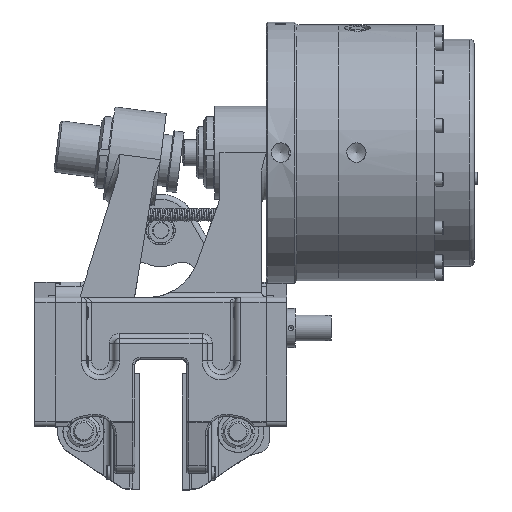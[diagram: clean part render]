
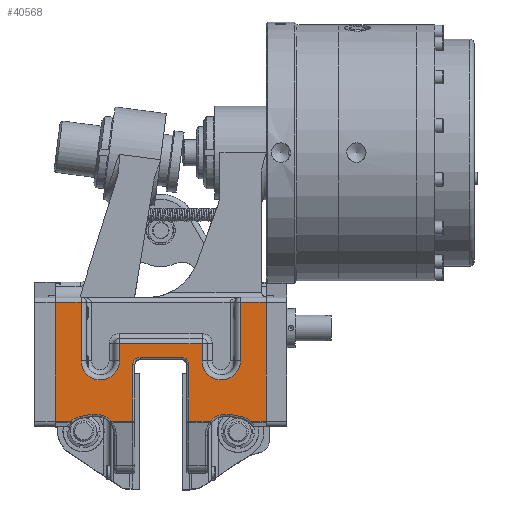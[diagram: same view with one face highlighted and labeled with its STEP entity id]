
A CAD part, top view. The second image highlights one B-rep face of the part: STEP entity #40568.
In plain terms, the highlighted planar face has unit normal (0, 0, 1).
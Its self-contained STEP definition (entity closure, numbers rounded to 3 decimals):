
#3391=FACE_OUTER_BOUND('',#5814,.T.);
#5814=EDGE_LOOP('',(#31952,#31953,#31954,#31955,#31956,#31957,#31958,#31959,
#31960,#31961,#31962,#31963,#31964,#31965,#31966,#31967,#31968,#31969,#31970,
#31971,#31972,#31973,#31974,#31975,#31976,#31977));
#8373=CIRCLE('',#44431,20.);
#8377=CIRCLE('',#44437,18.);
#8379=CIRCLE('',#44443,7.);
#8380=CIRCLE('',#44444,7.);
#8381=CIRCLE('',#44445,20.);
#8382=CIRCLE('',#44446,18.);
#8383=CIRCLE('',#44447,18.5);
#8384=CIRCLE('',#44448,18.5);
#10731=LINE('',#69783,#13380);
#10795=LINE('',#70010,#13444);
#10796=LINE('',#70083,#13445);
#10798=LINE('',#70087,#13447);
#10799=LINE('',#70089,#13448);
#10800=LINE('',#70093,#13449);
#10801=LINE('',#70097,#13450);
#10802=LINE('',#70099,#13451);
#10803=LINE('',#70103,#13452);
#10804=LINE('',#70107,#13453);
#10805=LINE('',#70109,#13454);
#10806=LINE('',#70111,#13455);
#10807=LINE('',#70113,#13456);
#10808=LINE('',#70117,#13457);
#10809=LINE('',#70119,#13458);
#10810=LINE('',#70121,#13459);
#10811=LINE('',#70125,#13460);
#10812=LINE('',#70126,#13461);
#13380=VECTOR('',#53592,10.);
#13444=VECTOR('',#53744,10.);
#13445=VECTOR('',#53761,10.);
#13447=VECTOR('',#53765,10.);
#13448=VECTOR('',#53766,10.);
#13449=VECTOR('',#53769,10.);
#13450=VECTOR('',#53772,10.);
#13451=VECTOR('',#53773,10.);
#13452=VECTOR('',#53776,10.);
#13453=VECTOR('',#53779,10.);
#13454=VECTOR('',#53780,10.);
#13455=VECTOR('',#53781,5.);
#13456=VECTOR('',#53782,10.);
#13457=VECTOR('',#53785,10.);
#13458=VECTOR('',#53786,10.);
#13459=VECTOR('',#53787,10.);
#13460=VECTOR('',#53790,10.);
#13461=VECTOR('',#53791,5.);
#17366=VERTEX_POINT('',#69776);
#17368=VERTEX_POINT('',#69782);
#17422=VERTEX_POINT('',#69988);
#17424=VERTEX_POINT('',#70000);
#17426=VERTEX_POINT('',#70006);
#17428=VERTEX_POINT('',#70012);
#17434=VERTEX_POINT('',#70086);
#17435=VERTEX_POINT('',#70088);
#17436=VERTEX_POINT('',#70090);
#17437=VERTEX_POINT('',#70092);
#17438=VERTEX_POINT('',#70094);
#17439=VERTEX_POINT('',#70096);
#17440=VERTEX_POINT('',#70098);
#17441=VERTEX_POINT('',#70100);
#17442=VERTEX_POINT('',#70102);
#17443=VERTEX_POINT('',#70104);
#17444=VERTEX_POINT('',#70106);
#17445=VERTEX_POINT('',#70108);
#17446=VERTEX_POINT('',#70110);
#17447=VERTEX_POINT('',#70112);
#17448=VERTEX_POINT('',#70114);
#17449=VERTEX_POINT('',#70116);
#17450=VERTEX_POINT('',#70118);
#17451=VERTEX_POINT('',#70120);
#17452=VERTEX_POINT('',#70122);
#17453=VERTEX_POINT('',#70124);
#22423=EDGE_CURVE('',#17368,#17366,#10731,.T.);
#22508=EDGE_CURVE('',#17422,#17424,#8373,.T.);
#22511=EDGE_CURVE('',#17424,#17426,#10795,.T.);
#22514=EDGE_CURVE('',#17426,#17428,#8377,.T.);
#22521=EDGE_CURVE('',#17428,#17366,#10796,.T.);
#22523=EDGE_CURVE('',#17434,#17422,#10798,.T.);
#22524=EDGE_CURVE('',#17435,#17434,#10799,.T.);
#22525=EDGE_CURVE('',#17436,#17435,#8379,.T.);
#22526=EDGE_CURVE('',#17437,#17436,#10800,.T.);
#22527=EDGE_CURVE('',#17438,#17437,#8380,.T.);
#22528=EDGE_CURVE('',#17439,#17438,#10801,.T.);
#22529=EDGE_CURVE('',#17440,#17439,#10802,.T.);
#22530=EDGE_CURVE('',#17441,#17440,#8381,.T.);
#22531=EDGE_CURVE('',#17442,#17441,#10803,.T.);
#22532=EDGE_CURVE('',#17443,#17442,#8382,.T.);
#22533=EDGE_CURVE('',#17444,#17443,#10804,.T.);
#22534=EDGE_CURVE('',#17445,#17444,#10805,.T.);
#22535=EDGE_CURVE('',#17446,#17445,#10806,.T.);
#22536=EDGE_CURVE('',#17447,#17446,#10807,.T.);
#22537=EDGE_CURVE('',#17448,#17447,#8383,.T.);
#22538=EDGE_CURVE('',#17449,#17448,#10808,.T.);
#22539=EDGE_CURVE('',#17450,#17449,#10809,.T.);
#22540=EDGE_CURVE('',#17451,#17450,#10810,.T.);
#22541=EDGE_CURVE('',#17452,#17451,#8384,.T.);
#22542=EDGE_CURVE('',#17453,#17452,#10811,.T.);
#22543=EDGE_CURVE('',#17368,#17453,#10812,.T.);
#31952=ORIENTED_EDGE('',*,*,#22514,.F.);
#31953=ORIENTED_EDGE('',*,*,#22511,.F.);
#31954=ORIENTED_EDGE('',*,*,#22508,.F.);
#31955=ORIENTED_EDGE('',*,*,#22523,.F.);
#31956=ORIENTED_EDGE('',*,*,#22524,.F.);
#31957=ORIENTED_EDGE('',*,*,#22525,.F.);
#31958=ORIENTED_EDGE('',*,*,#22526,.F.);
#31959=ORIENTED_EDGE('',*,*,#22527,.F.);
#31960=ORIENTED_EDGE('',*,*,#22528,.F.);
#31961=ORIENTED_EDGE('',*,*,#22529,.F.);
#31962=ORIENTED_EDGE('',*,*,#22530,.F.);
#31963=ORIENTED_EDGE('',*,*,#22531,.F.);
#31964=ORIENTED_EDGE('',*,*,#22532,.F.);
#31965=ORIENTED_EDGE('',*,*,#22533,.F.);
#31966=ORIENTED_EDGE('',*,*,#22534,.F.);
#31967=ORIENTED_EDGE('',*,*,#22535,.F.);
#31968=ORIENTED_EDGE('',*,*,#22536,.F.);
#31969=ORIENTED_EDGE('',*,*,#22537,.F.);
#31970=ORIENTED_EDGE('',*,*,#22538,.F.);
#31971=ORIENTED_EDGE('',*,*,#22539,.F.);
#31972=ORIENTED_EDGE('',*,*,#22540,.F.);
#31973=ORIENTED_EDGE('',*,*,#22541,.F.);
#31974=ORIENTED_EDGE('',*,*,#22542,.F.);
#31975=ORIENTED_EDGE('',*,*,#22543,.F.);
#31976=ORIENTED_EDGE('',*,*,#22423,.T.);
#31977=ORIENTED_EDGE('',*,*,#22521,.F.);
#36985=PLANE('',#44442);
#40568=ADVANCED_FACE('',(#3391),#36985,.T.);
#44431=AXIS2_PLACEMENT_3D('',#70004,#53737,#53738);
#44437=AXIS2_PLACEMENT_3D('',#70016,#53751,#53752);
#44442=AXIS2_PLACEMENT_3D('',#70085,#53763,#53764);
#44443=AXIS2_PLACEMENT_3D('',#70091,#53767,#53768);
#44444=AXIS2_PLACEMENT_3D('',#70095,#53770,#53771);
#44445=AXIS2_PLACEMENT_3D('',#70101,#53774,#53775);
#44446=AXIS2_PLACEMENT_3D('',#70105,#53777,#53778);
#44447=AXIS2_PLACEMENT_3D('',#70115,#53783,#53784);
#44448=AXIS2_PLACEMENT_3D('',#70123,#53788,#53789);
#53592=DIRECTION('',(0.,-1.,0.));
#53737=DIRECTION('center_axis',(0.,0.,1.));
#53738=DIRECTION('ref_axis',(0.29,0.957,0.));
#53744=DIRECTION('',(-0.985,-0.174,0.));
#53751=DIRECTION('center_axis',(0.,0.,1.));
#53752=DIRECTION('ref_axis',(-0.388,0.922,0.));
#53761=DIRECTION('',(-1.,0.,0.));
#53763=DIRECTION('center_axis',(0.,0.,1.));
#53764=DIRECTION('ref_axis',(1.,0.,0.));
#53765=DIRECTION('',(-1.,0.,0.));
#53766=DIRECTION('',(0.,-1.,0.));
#53767=DIRECTION('center_axis',(0.,0.,1.));
#53768=DIRECTION('ref_axis',(-0.707,0.707,0.));
#53769=DIRECTION('',(-1.,0.,0.));
#53770=DIRECTION('center_axis',(0.,0.,1.));
#53771=DIRECTION('ref_axis',(0.707,0.707,0.));
#53772=DIRECTION('',(0.,1.,0.));
#53773=DIRECTION('',(-1.,0.,0.));
#53774=DIRECTION('center_axis',(0.,0.,1.));
#53775=DIRECTION('ref_axis',(-0.29,0.957,0.));
#53776=DIRECTION('',(-0.985,0.174,0.));
#53777=DIRECTION('center_axis',(0.,0.,1.));
#53778=DIRECTION('ref_axis',(0.388,0.922,0.));
#53779=DIRECTION('',(-1.,0.,0.));
#53780=DIRECTION('',(0.,-1.,0.));
#53781=DIRECTION('',(1.,0.,0.));
#53782=DIRECTION('',(0.,1.,0.));
#53783=DIRECTION('center_axis',(0.,0.,1.));
#53784=DIRECTION('ref_axis',(0.,-1.,0.));
#53785=DIRECTION('',(0.,-1.,0.));
#53786=DIRECTION('',(1.,0.,0.));
#53787=DIRECTION('',(0.,1.,0.));
#53788=DIRECTION('center_axis',(0.,0.,1.));
#53789=DIRECTION('ref_axis',(0.,-1.,0.));
#53790=DIRECTION('',(0.,-1.,0.));
#53791=DIRECTION('',(1.,0.,0.));
#69776=CARTESIAN_POINT('',(-102.,50.,285.));
#69782=CARTESIAN_POINT('',(-102.,165.,285.));
#69783=CARTESIAN_POINT('',(-102.,45.,285.));
#69988=CARTESIAN_POINT('',(-47.801,50.,285.));
#70000=CARTESIAN_POINT('',(-66.478,56.695,285.));
#70004=CARTESIAN_POINT('Origin',(-63.,37.,285.));
#70006=CARTESIAN_POINT('',(-77.63,54.726,285.));
#70010=CARTESIAN_POINT('',(-36.958,61.909,285.));
#70012=CARTESIAN_POINT('',(-86.95,50.,285.));
#70016=CARTESIAN_POINT('Origin',(-74.5,37.,285.));
#70083=CARTESIAN_POINT('',(-102.,50.,285.));
#70085=CARTESIAN_POINT('Origin',(0.,90.129,285.));
#70086=CARTESIAN_POINT('',(-27.,50.,285.));
#70087=CARTESIAN_POINT('',(-102.,50.,285.));
#70088=CARTESIAN_POINT('',(-27.,105.,285.));
#70089=CARTESIAN_POINT('',(-27.,45.065,285.));
#70090=CARTESIAN_POINT('',(-20.,112.,285.));
#70091=CARTESIAN_POINT('Origin',(-20.,105.,285.));
#70092=CARTESIAN_POINT('',(20.,112.,285.));
#70093=CARTESIAN_POINT('',(-10.,112.,285.));
#70094=CARTESIAN_POINT('',(27.,105.,285.));
#70095=CARTESIAN_POINT('Origin',(20.,105.,285.));
#70096=CARTESIAN_POINT('',(27.,50.,285.));
#70097=CARTESIAN_POINT('',(27.,97.565,285.));
#70098=CARTESIAN_POINT('',(47.801,50.,285.));
#70099=CARTESIAN_POINT('',(-102.,50.,285.));
#70100=CARTESIAN_POINT('',(66.478,56.695,285.));
#70101=CARTESIAN_POINT('Origin',(63.,37.,285.));
#70102=CARTESIAN_POINT('',(77.63,54.726,285.));
#70103=CARTESIAN_POINT('',(31.381,62.893,285.));
#70104=CARTESIAN_POINT('',(86.95,50.,285.));
#70105=CARTESIAN_POINT('Origin',(74.5,37.,285.));
#70106=CARTESIAN_POINT('',(102.,50.,285.));
#70107=CARTESIAN_POINT('',(-102.,50.,285.));
#70108=CARTESIAN_POINT('',(102.,165.,285.));
#70109=CARTESIAN_POINT('',(102.,165.,285.));
#70110=CARTESIAN_POINT('',(77.,165.,285.));
#70111=CARTESIAN_POINT('',(0.,165.,285.));
#70112=CARTESIAN_POINT('',(77.,108.5,285.));
#70113=CARTESIAN_POINT('',(77.,127.565,285.));
#70114=CARTESIAN_POINT('',(40.,108.5,285.));
#70115=CARTESIAN_POINT('Origin',(58.5,108.5,285.));
#70116=CARTESIAN_POINT('',(40.,125.,285.));
#70117=CARTESIAN_POINT('',(40.,99.315,285.));
#70118=CARTESIAN_POINT('',(-40.,125.,285.));
#70119=CARTESIAN_POINT('',(20.,125.,285.));
#70120=CARTESIAN_POINT('',(-40.,108.5,285.));
#70121=CARTESIAN_POINT('',(-40.,107.565,285.));
#70122=CARTESIAN_POINT('',(-77.,108.5,285.));
#70123=CARTESIAN_POINT('Origin',(-58.5,108.5,285.));
#70124=CARTESIAN_POINT('',(-77.,165.,285.));
#70125=CARTESIAN_POINT('',(-77.,99.315,285.));
#70126=CARTESIAN_POINT('',(102.,165.,285.));
